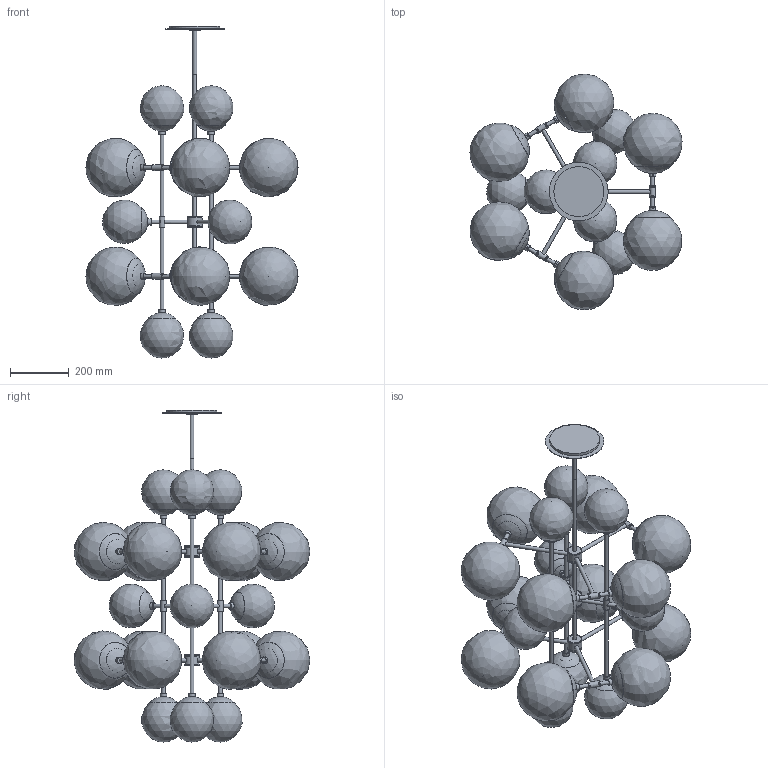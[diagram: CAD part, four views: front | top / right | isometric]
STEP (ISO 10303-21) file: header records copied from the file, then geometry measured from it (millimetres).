
FILE_DESCRIPTION(/* description */ (''),/* implementation_level */ '2;1');
FILE_NAME(/* name */ 'T:\B404 Globe Glow\Pliki bryłowe handlowe\B404 Glow 3D files_na stronę\B404 Glow.stp',/* time_stamp */ '2022-02-02T15:53:57+01:00',/* author */ ('Mariusz Awariusz'),/* organization */ (''),/* preprocessor_version */ 'ST-DEVELOPER v18.1',/* originating_system */ 'Autodesk Inventor 2022',/* authorisation */ '');
FILE_SCHEMA (('AUTOMOTIVE_DESIGN { 1 0 10303 214 3 1 1 }'));
Length unit declared in the file: millimetre
Products named in the file (1): B404 Globe Glow CE_v2_na potrzeby plików 3D_2_jako część_
korpusy bryłowe
Bounding box: 722.58 x 803 x 1131.12 mm (x, y, z)
Volume: 5739671.8 mm3; surface area: 4990638.2 mm2
Topology: 118 solids, 118 shells, 839 faces, 1447 edges, 932 vertices
Faces by surface type: cylinder 266, plane 264, cone 183, sphere 42, torus 42, bspline 42
Full cylindrical faces by diameter (mm): 11.6 x42, 13 x76, 14.7 x12, 16 x42, 20 x9, 22 x21, 34.5 x1, 36 x1, 44 x6, 47 x6, 50 x9, 50.221 x9, 80.221 x12, 170 x1, 200 x1
Entity records: 22289 total; most frequent: CARTESIAN_POINT 5649, DIRECTION 3879, ORIENTED_EDGE 2810, AXIS2_PLACEMENT_3D 1724, EDGE_CURVE 1405, EDGE_LOOP 1011, VERTEX_POINT 932, CIRCLE 926
